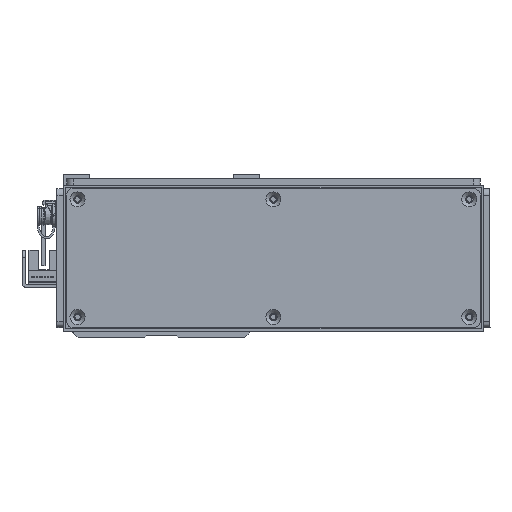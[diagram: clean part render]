
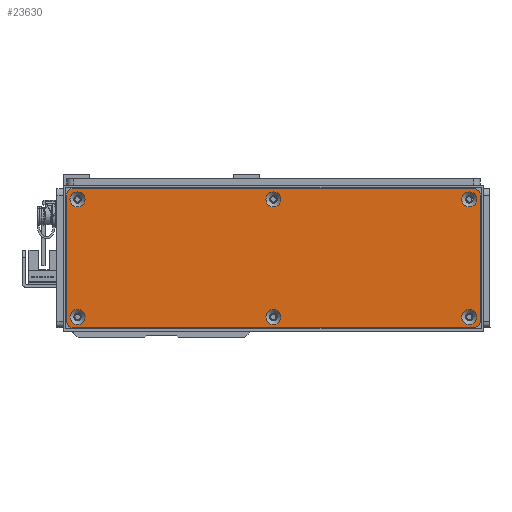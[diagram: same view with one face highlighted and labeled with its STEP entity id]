
A CAD part, left-side view. The second image highlights one B-rep face of the part: STEP entity #23630.
In plain terms, the highlighted planar face has unit normal (-1, 0, 0) as drawn and (0, 0, 1) by its records, which use the part's own axes.
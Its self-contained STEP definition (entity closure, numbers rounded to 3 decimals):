
#972=FACE_BOUND('',#4793,.T.);
#973=FACE_BOUND('',#4794,.T.);
#974=FACE_BOUND('',#4795,.T.);
#975=FACE_BOUND('',#4796,.T.);
#976=FACE_BOUND('',#4797,.T.);
#977=FACE_BOUND('',#4798,.T.);
#1487=PLANE('',#26325);
#3174=FACE_OUTER_BOUND('',#4792,.T.);
#4792=EDGE_LOOP('',(#20894,#20895,#20896,#20897,#20898,#20899,#20900,#20901));
#4793=EDGE_LOOP('',(#20902));
#4794=EDGE_LOOP('',(#20903));
#4795=EDGE_LOOP('',(#20904));
#4796=EDGE_LOOP('',(#20905));
#4797=EDGE_LOOP('',(#20906));
#4798=EDGE_LOOP('',(#20907));
#6655=LINE('',#40028,#8598);
#6658=LINE('',#40036,#8601);
#6661=LINE('',#40044,#8604);
#6664=LINE('',#40051,#8607);
#8598=VECTOR('',#32318,10.);
#8601=VECTOR('',#32327,10.);
#8604=VECTOR('',#32336,10.);
#8607=VECTOR('',#32345,10.);
#10037=CIRCLE('',#26279,3.45);
#10040=CIRCLE('',#26284,3.45);
#10043=CIRCLE('',#26289,3.45);
#10046=CIRCLE('',#26294,3.45);
#10049=CIRCLE('',#26299,3.45);
#10052=CIRCLE('',#26304,3.45);
#10059=CIRCLE('',#26314,3.);
#10060=CIRCLE('',#26317,3.);
#10061=CIRCLE('',#26320,3.);
#10062=CIRCLE('',#26323,3.);
#11964=VERTEX_POINT('',#39944);
#11967=VERTEX_POINT('',#39954);
#11970=VERTEX_POINT('',#39964);
#11973=VERTEX_POINT('',#39974);
#11976=VERTEX_POINT('',#39984);
#11979=VERTEX_POINT('',#39994);
#11990=VERTEX_POINT('',#40021);
#11991=VERTEX_POINT('',#40023);
#11992=VERTEX_POINT('',#40027);
#11993=VERTEX_POINT('',#40031);
#11994=VERTEX_POINT('',#40035);
#11995=VERTEX_POINT('',#40039);
#11996=VERTEX_POINT('',#40043);
#11997=VERTEX_POINT('',#40047);
#15003=EDGE_CURVE('',#11964,#11964,#10037,.T.);
#15008=EDGE_CURVE('',#11967,#11967,#10040,.T.);
#15013=EDGE_CURVE('',#11970,#11970,#10043,.T.);
#15018=EDGE_CURVE('',#11973,#11973,#10046,.T.);
#15023=EDGE_CURVE('',#11976,#11976,#10049,.T.);
#15028=EDGE_CURVE('',#11979,#11979,#10052,.T.);
#15042=EDGE_CURVE('',#11991,#11990,#10059,.T.);
#15044=EDGE_CURVE('',#11992,#11991,#6655,.T.);
#15046=EDGE_CURVE('',#11993,#11992,#10060,.T.);
#15048=EDGE_CURVE('',#11994,#11993,#6658,.T.);
#15050=EDGE_CURVE('',#11995,#11994,#10061,.T.);
#15052=EDGE_CURVE('',#11996,#11995,#6661,.T.);
#15054=EDGE_CURVE('',#11997,#11996,#10062,.T.);
#15056=EDGE_CURVE('',#11990,#11997,#6664,.T.);
#20894=ORIENTED_EDGE('',*,*,#15056,.T.);
#20895=ORIENTED_EDGE('',*,*,#15054,.T.);
#20896=ORIENTED_EDGE('',*,*,#15052,.T.);
#20897=ORIENTED_EDGE('',*,*,#15050,.T.);
#20898=ORIENTED_EDGE('',*,*,#15048,.T.);
#20899=ORIENTED_EDGE('',*,*,#15046,.T.);
#20900=ORIENTED_EDGE('',*,*,#15044,.T.);
#20901=ORIENTED_EDGE('',*,*,#15042,.T.);
#20902=ORIENTED_EDGE('',*,*,#15003,.T.);
#20903=ORIENTED_EDGE('',*,*,#15008,.T.);
#20904=ORIENTED_EDGE('',*,*,#15013,.T.);
#20905=ORIENTED_EDGE('',*,*,#15018,.T.);
#20906=ORIENTED_EDGE('',*,*,#15023,.T.);
#20907=ORIENTED_EDGE('',*,*,#15028,.T.);
#23630=ADVANCED_FACE('',(#3174,#972,#973,#974,#975,#976,#977),#1487,.T.);
#26279=AXIS2_PLACEMENT_3D('',#39945,#32226,#32227);
#26284=AXIS2_PLACEMENT_3D('',#39955,#32238,#32239);
#26289=AXIS2_PLACEMENT_3D('',#39965,#32250,#32251);
#26294=AXIS2_PLACEMENT_3D('',#39975,#32262,#32263);
#26299=AXIS2_PLACEMENT_3D('',#39985,#32274,#32275);
#26304=AXIS2_PLACEMENT_3D('',#39995,#32286,#32287);
#26314=AXIS2_PLACEMENT_3D('',#40024,#32313,#32314);
#26317=AXIS2_PLACEMENT_3D('',#40032,#32322,#32323);
#26320=AXIS2_PLACEMENT_3D('',#40040,#32331,#32332);
#26323=AXIS2_PLACEMENT_3D('',#40048,#32340,#32341);
#26325=AXIS2_PLACEMENT_3D('',#40052,#32346,#32347);
#32226=DIRECTION('center_axis',(0.,0.,-1.));
#32227=DIRECTION('ref_axis',(1.,0.,0.));
#32238=DIRECTION('center_axis',(0.,0.,-1.));
#32239=DIRECTION('ref_axis',(1.,0.,0.));
#32250=DIRECTION('center_axis',(0.,0.,-1.));
#32251=DIRECTION('ref_axis',(1.,0.,0.));
#32262=DIRECTION('center_axis',(0.,0.,-1.));
#32263=DIRECTION('ref_axis',(1.,0.,0.));
#32274=DIRECTION('center_axis',(0.,0.,-1.));
#32275=DIRECTION('ref_axis',(1.,0.,0.));
#32286=DIRECTION('center_axis',(0.,0.,-1.));
#32287=DIRECTION('ref_axis',(1.,0.,0.));
#32313=DIRECTION('center_axis',(0.,0.,1.));
#32314=DIRECTION('ref_axis',(0.,1.,0.));
#32318=DIRECTION('',(-1.,0.,0.));
#32322=DIRECTION('center_axis',(0.,0.,1.));
#32323=DIRECTION('ref_axis',(1.,0.,0.));
#32327=DIRECTION('',(0.,1.,0.));
#32331=DIRECTION('center_axis',(0.,0.,1.));
#32332=DIRECTION('ref_axis',(0.,-1.,0.));
#32336=DIRECTION('',(1.,0.,0.));
#32340=DIRECTION('center_axis',(0.,0.,1.));
#32341=DIRECTION('ref_axis',(-1.,0.,0.));
#32345=DIRECTION('',(0.,-1.,0.));
#32346=DIRECTION('center_axis',(0.,0.,1.));
#32347=DIRECTION('ref_axis',(1.,0.,0.));
#39944=CARTESIAN_POINT('',(-3.45,27.,1.5));
#39945=CARTESIAN_POINT('Origin',(0.,27.,1.5));
#39954=CARTESIAN_POINT('',(86.55,-27.,1.5));
#39955=CARTESIAN_POINT('Origin',(90.,-27.,1.5));
#39964=CARTESIAN_POINT('',(-93.45,27.,1.5));
#39965=CARTESIAN_POINT('Origin',(-90.,27.,1.5));
#39974=CARTESIAN_POINT('',(86.55,27.,1.5));
#39975=CARTESIAN_POINT('Origin',(90.,27.,1.5));
#39984=CARTESIAN_POINT('',(-93.45,-27.,1.5));
#39985=CARTESIAN_POINT('Origin',(-90.,-27.,1.5));
#39994=CARTESIAN_POINT('',(-3.45,-27.,1.5));
#39995=CARTESIAN_POINT('Origin',(0.,-27.,1.5));
#40021=CARTESIAN_POINT('',(-95.,29.,1.5));
#40023=CARTESIAN_POINT('',(-92.,32.,1.5));
#40024=CARTESIAN_POINT('Origin',(-92.,29.,1.5));
#40027=CARTESIAN_POINT('',(92.,32.,1.5));
#40028=CARTESIAN_POINT('',(92.,32.,1.5));
#40031=CARTESIAN_POINT('',(95.,29.,1.5));
#40032=CARTESIAN_POINT('Origin',(92.,29.,1.5));
#40035=CARTESIAN_POINT('',(95.,-29.,1.5));
#40036=CARTESIAN_POINT('',(95.,-29.,1.5));
#40039=CARTESIAN_POINT('',(92.,-32.,1.5));
#40040=CARTESIAN_POINT('Origin',(92.,-29.,1.5));
#40043=CARTESIAN_POINT('',(-92.,-32.,1.5));
#40044=CARTESIAN_POINT('',(-92.,-32.,1.5));
#40047=CARTESIAN_POINT('',(-95.,-29.,1.5));
#40048=CARTESIAN_POINT('Origin',(-92.,-29.,1.5));
#40051=CARTESIAN_POINT('',(-95.,29.,1.5));
#40052=CARTESIAN_POINT('Origin',(0.,0.,
1.5));
